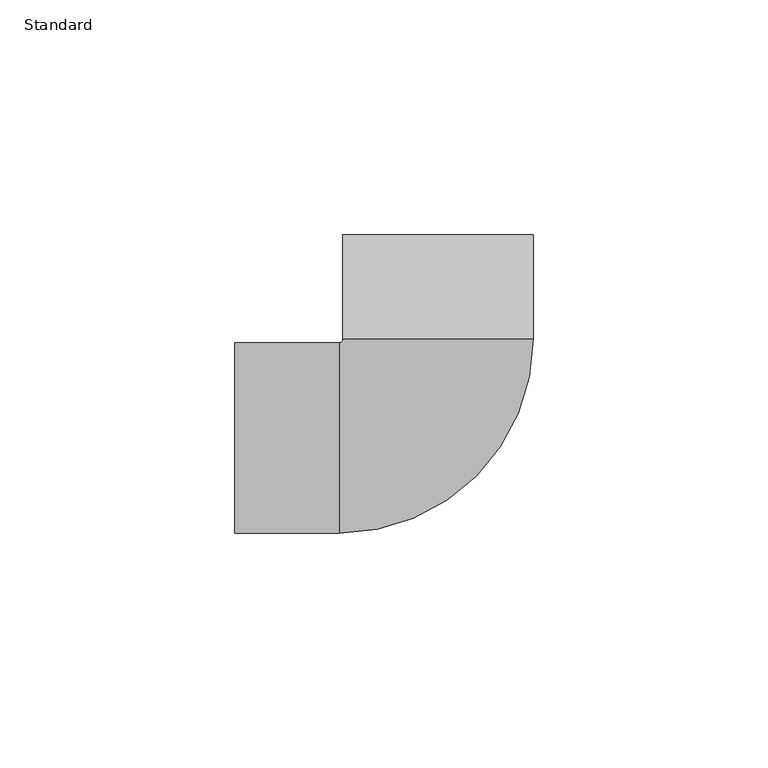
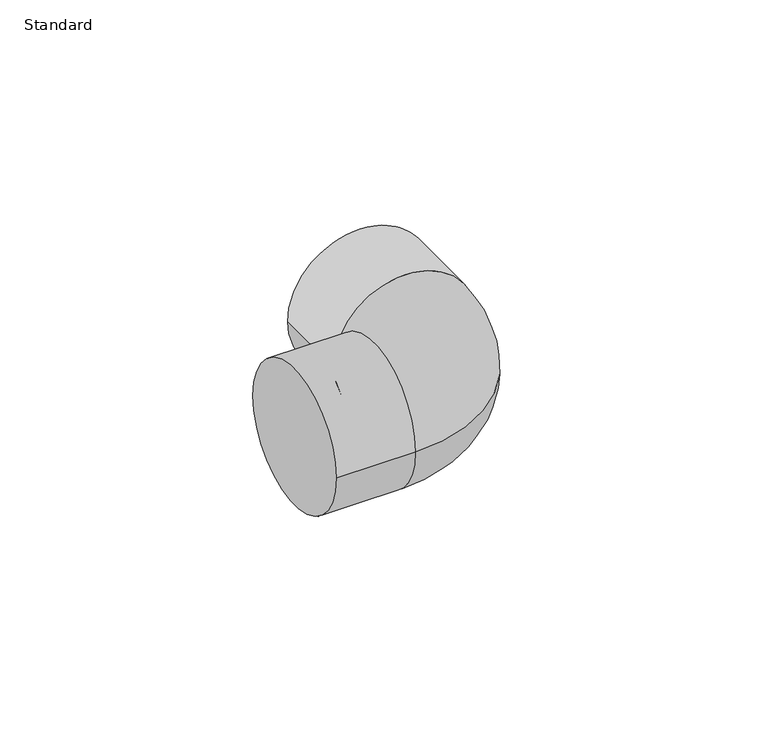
"""IFC4 building model written with IfcOpenShell, lengths in millimetres: pipe fitting geometry, M_Elbow - CPVC - Sch 40 : Standard."""

from ifc_helpers import new_model, si_unit, point, frame, origin, place, context, project, spatial, circle_curve, ellipse_curve, trimmed, source, transform, mapped, element, save
from ifc_brep_helpers import plane_surface, cylinder_surface, revolved_surface, advanced_brep


def standard_28db8dab(model_context):
    return source(origin(), model_context, "Body", "AdvancedBrep", [
        advanced_brep(
        [(-43.2625471, -20.2438, 0.0), (-43.2625471, 20.2438, 0.0), (-21.0375471, -20.2438, 0.0), (-21.0375471, 20.2438, 0.0), (-20.2437971, 21.0375499, 0.0), (20.2438029, 21.0375442, 0.0), (20.243806, 43.2625442, 0.0), (-20.243794, 43.2625499, 0.0)],
        [
            (0, 1, circle_curve(frame((-43.2625471, 0.0, 0.0), z_axis=(-1.0, 0.0, 0.0), x_axis=(0.0, 1.0, 0.0)), 20.2438)),
            (1, 0, circle_curve(frame((-43.2625471, 0.0, 0.0), z_axis=(-1.0, 0.0, 0.0), x_axis=(0.0, 1.0, 0.0)), 20.2438)),
            (0, 2),
            (2, 3, circle_curve(frame((-21.0375471, 0.0, 0.0), z_axis=(-1.0, 0.0, 0.0), x_axis=(0.0, 1.0, 0.0)), 20.2438)),
            (3, 1),
            (3, 2, circle_curve(frame((-21.0375471, 0.0, 0.0), z_axis=(-1.0, 0.0, 0.0), x_axis=(0.0, 1.0, 0.0)), 20.2438)),
            (4, 3, circle_curve(frame((-21.0375471, 21.03755, 0.0), z_axis=(0.0, 0.0, -1.0), x_axis=(0.0, -1.0, 0.0)), 0.79375)),
            (2, 5, circle_curve(frame((-21.0375471, 21.03755, 0.0), z_axis=(0.0, 0.0, 1.0), x_axis=(0.0, -1.0, 0.0)), 41.28135)),
            (5, 4, circle_curve(frame((2.9e-06, 21.0375471, 0.0), z_axis=(-1.3943263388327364e-07, -0.9999999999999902, 0.0), x_axis=(-0.9999999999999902, 1.3943263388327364e-07, 0.0)), 20.2438)),
            (4, 5, circle_curve(frame((2.9e-06, 21.0375471, 0.0), z_axis=(-1.3943263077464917e-07, -0.9999999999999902, 0.0), x_axis=(-0.9999999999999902, 1.3943263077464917e-07, 0.0)), 20.2438)),
            (6, 7, circle_curve(frame((6e-06, 43.2625471, 0.0), z_axis=(1.3943263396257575e-07, 0.9999999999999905, 0.0), x_axis=(-0.9999999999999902, 1.3943263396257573e-07, 0.0)), 20.2438)),
            (7, 6, circle_curve(frame((6e-06, 43.2625471, 0.0), z_axis=(1.3943263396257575e-07, 0.9999999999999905, 0.0), x_axis=(-0.9999999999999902, 1.3943263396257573e-07, 0.0)), 20.2438)),
            (5, 6),
            (7, 4),
        ],
        [
            plane_surface(frame((-43.2625471, 0.0, 0.0), z_axis=(-1.0, 0.0, 0.0), x_axis=(0.0, 0.0, 1.0))),
            cylinder_surface(frame((-43.2625471, 0.0, 0.0), z_axis=(-1.0, 0.0, 0.0), x_axis=(0.0, 1.0, 0.0)), 20.2438),
            revolved_surface(trimmed(ellipse_curve(frame((-21.0375471, 0.0, 0.0), z_axis=(-1.0, 0.0, 0.0), x_axis=(0.0, 1.0, 0.0)), 20.2438, 20.2438), [point((-21.0375471, -20.2438, 0.0))], [point((-21.0375471, 20.2438, 0.0))], True, "CARTESIAN"), (-21.0375471, 21.03755, 0.0), (0.0, 0.0, 1.0)),
            revolved_surface(trimmed(ellipse_curve(frame((-21.0375471, 0.0, 0.0), z_axis=(-1.0, 0.0, 0.0), x_axis=(0.0, 1.0, 0.0)), 20.2438, 20.2438), [point((-21.0375471, 20.2438, 0.0))], [point((-21.0375471, -20.2438, 0.0))], True, "CARTESIAN"), (-21.0375471, 21.03755, 0.0), (0.0, 0.0, 1.0)),
            plane_surface(frame((6e-06, 43.2625471, 0.0), z_axis=(1.3943263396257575e-07, 0.9999999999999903, 0.0), x_axis=(0.0, 0.0, 1.0))),
            cylinder_surface(frame((2.9e-06, 21.0375471, 0.0), z_axis=(-1.3943263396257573e-07, -0.9999999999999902, 0.0), x_axis=(-0.9999999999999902, 1.3943263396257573e-07, 0.0)), 20.2438),
        ],
        [
            (0, [[1, 2]]),
            (1, [[-1, 3, 4, 5]]),
            (1, [[-2, -5, 6, -3]]),
            (2, [[7, -4, 8, 9]]),
            (3, [[-8, -6, -7, 10]]),
            (4, [[11, 12]]),
            (5, [[-9, 13, -12, 14]]),
            (5, [[-10, -14, -11, -13]]),
        ],
    ),
    ])


if __name__ == "__main__":
    model = new_model("IFC4")
    model_context = context("Model", 3, world=origin())
    ifc_project = project(units=[si_unit("LENGTHUNIT", "METRE", prefix="MILLI")], contexts=[model_context])
    site = spatial("IfcSite", under=ifc_project)
    building = spatial("IfcBuilding", under=site)
    placement = place(None, origin())
    standard_shape = standard_28db8dab(model_context)
    element("IfcPipeFitting", 1, ObjectType="M_Elbow - CPVC - Sch 40 : Standard", at=placement, inside=building, context=model_context, shape_type="MappedRepresentation", body=[
        mapped(standard_shape, transform((0.0, 0.0, 0.0), x_axis=(1.0, 0.0, 0.0), y_axis=(0.0, 1.0, 0.0), z_axis=(0.0, 0.0, 1.0))),
    ])
    save(model, "model.ifc")
